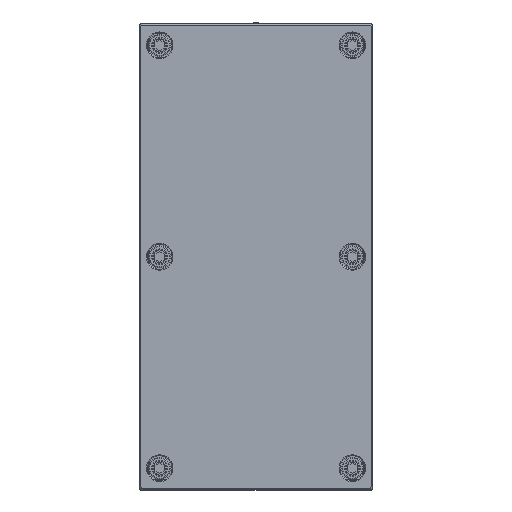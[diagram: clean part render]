
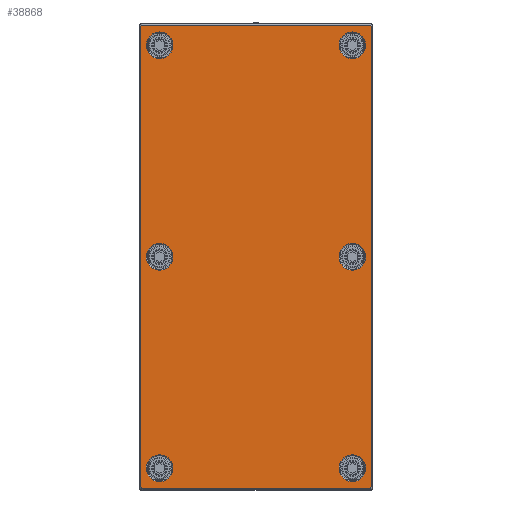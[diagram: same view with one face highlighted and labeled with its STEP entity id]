
A CAD part, front view. The second image highlights one B-rep face of the part: STEP entity #38868.
In plain terms, the highlighted planar face has unit normal (0, -1, 0).
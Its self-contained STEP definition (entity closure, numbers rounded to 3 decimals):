
#37485=CARTESIAN_POINT('',(74.,-6.,-36.5));
#37486=DIRECTION('',(0.,-1.,0.));
#37487=DIRECTION('',(0.,0.,-1.));
#37488=AXIS2_PLACEMENT_3D('',#37485,#37486,#37487);
#37490=DIRECTION('',(1.,0.,0.));
#37491=VECTOR('',#37490,148.);
#37492=CARTESIAN_POINT('',(-74.,-6.,
-37.));
#37493=LINE('',#37492,#37491);
#37494=CARTESIAN_POINT('',(-74.,-6.,-36.5));
#37495=DIRECTION('',(0.,-1.,0.));
#37496=DIRECTION('',(-1.,0.,0.));
#37497=AXIS2_PLACEMENT_3D('',#37494,#37495,#37496);
#37499=DIRECTION('',(0.,0.,-1.));
#37500=VECTOR('',#37499,73.);
#37501=CARTESIAN_POINT('',(-74.5,-6.,
36.5));
#37502=LINE('',#37501,#37500);
#37503=CARTESIAN_POINT('',(-74.,-6.,36.5));
#37504=DIRECTION('',(0.,-1.,0.));
#37505=DIRECTION('',(0.,0.,1.));
#37506=AXIS2_PLACEMENT_3D('',#37503,#37504,#37505);
#37508=DIRECTION('',(-1.,0.,0.));
#37509=VECTOR('',#37508,148.);
#37510=CARTESIAN_POINT('',(74.,-6.,
37.));
#37511=LINE('',#37510,#37509);
#37512=CARTESIAN_POINT('',(74.,-6.,36.5));
#37513=DIRECTION('',(0.,-1.,0.));
#37514=DIRECTION('',(1.,0.,0.));
#37515=AXIS2_PLACEMENT_3D('',#37512,#37513,#37514);
#37517=DIRECTION('',(0.,0.,1.));
#37518=VECTOR('',#37517,73.);
#37519=CARTESIAN_POINT('',(74.5,-6.,
-36.5));
#37520=LINE('',#37519,#37518);
#37521=CARTESIAN_POINT('',(-68.,-6.,-31.));
#37522=DIRECTION('',(0.,1.,0.));
#37523=DIRECTION('',(1.,0.,0.));
#37524=AXIS2_PLACEMENT_3D('',#37521,#37522,#37523);
#37526=CARTESIAN_POINT('',(-68.,-6.,-31.));
#37527=DIRECTION('',(0.,1.,0.));
#37528=DIRECTION('',(-1.,0.,0.));
#37529=AXIS2_PLACEMENT_3D('',#37526,#37527,#37528);
#37531=CARTESIAN_POINT('',(0.,-6.,-31.));
#37532=DIRECTION('',(0.,1.,0.));
#37533=DIRECTION('',(1.,0.,0.));
#37534=AXIS2_PLACEMENT_3D('',#37531,#37532,#37533);
#37536=CARTESIAN_POINT('',(0.,-6.,-31.));
#37537=DIRECTION('',(0.,1.,0.));
#37538=DIRECTION('',(-1.,0.,0.));
#37539=AXIS2_PLACEMENT_3D('',#37536,#37537,#37538);
#37541=CARTESIAN_POINT('',(68.,-6.,-31.));
#37542=DIRECTION('',(0.,1.,0.));
#37543=DIRECTION('',(1.,0.,0.));
#37544=AXIS2_PLACEMENT_3D('',#37541,#37542,#37543);
#37546=CARTESIAN_POINT('',(68.,-6.,-31.));
#37547=DIRECTION('',(0.,1.,0.));
#37548=DIRECTION('',(-1.,0.,0.));
#37549=AXIS2_PLACEMENT_3D('',#37546,#37547,#37548);
#37551=CARTESIAN_POINT('',(68.,-6.,31.));
#37552=DIRECTION('',(0.,1.,0.));
#37553=DIRECTION('',(1.,0.,0.));
#37554=AXIS2_PLACEMENT_3D('',#37551,#37552,#37553);
#37556=CARTESIAN_POINT('',(68.,-6.,31.));
#37557=DIRECTION('',(0.,1.,0.));
#37558=DIRECTION('',(-1.,0.,0.));
#37559=AXIS2_PLACEMENT_3D('',#37556,#37557,#37558);
#37561=CARTESIAN_POINT('',(0.,-6.,31.));
#37562=DIRECTION('',(0.,1.,0.));
#37563=DIRECTION('',(1.,0.,0.));
#37564=AXIS2_PLACEMENT_3D('',#37561,#37562,#37563);
#37566=CARTESIAN_POINT('',(0.,-6.,31.));
#37567=DIRECTION('',(0.,1.,0.));
#37568=DIRECTION('',(-1.,0.,0.));
#37569=AXIS2_PLACEMENT_3D('',#37566,#37567,#37568);
#37571=CARTESIAN_POINT('',(-68.,-6.,31.));
#37572=DIRECTION('',(0.,1.,0.));
#37573=DIRECTION('',(1.,0.,0.));
#37574=AXIS2_PLACEMENT_3D('',#37571,#37572,#37573);
#37576=CARTESIAN_POINT('',(-68.,-6.,31.));
#37577=DIRECTION('',(0.,1.,0.));
#37578=DIRECTION('',(-1.,0.,0.));
#37579=AXIS2_PLACEMENT_3D('',#37576,#37577,#37578);
#38609=CARTESIAN_POINT('',(74.,-6.,-37.));
#38610=CARTESIAN_POINT('',(74.5,-6.,-36.5));
#38611=VERTEX_POINT('',#38609);
#38612=VERTEX_POINT('',#38610);
#38617=CARTESIAN_POINT('',(74.5,-6.,
36.5));
#38618=VERTEX_POINT('',#38617);
#38621=CARTESIAN_POINT('',(74.,-6.,37.));
#38622=VERTEX_POINT('',#38621);
#38625=CARTESIAN_POINT('',(-74.,-6.,
37.));
#38626=VERTEX_POINT('',#38625);
#38629=CARTESIAN_POINT('',(-74.5,-6.,36.5));
#38630=VERTEX_POINT('',#38629);
#38633=CARTESIAN_POINT('',(-74.5,-6.,
-36.5));
#38634=VERTEX_POINT('',#38633);
#38637=CARTESIAN_POINT('',(-74.,-6.,-37.));
#38638=VERTEX_POINT('',#38637);
#38665=CARTESIAN_POINT('',(-63.7,-6.,-31.));
#38666=CARTESIAN_POINT('',(-72.3,-6.,-31.));
#38667=VERTEX_POINT('',#38665);
#38668=VERTEX_POINT('',#38666);
#38681=CARTESIAN_POINT('',(4.3,-6.,-31.));
#38682=CARTESIAN_POINT('',(-4.3,-6.,-31.));
#38683=VERTEX_POINT('',#38681);
#38684=VERTEX_POINT('',#38682);
#38705=CARTESIAN_POINT('',(72.3,-6.,-31.));
#38706=CARTESIAN_POINT('',(63.7,-6.,-31.));
#38707=VERTEX_POINT('',#38705);
#38708=VERTEX_POINT('',#38706);
#38721=CARTESIAN_POINT('',(72.3,-6.,31.));
#38722=CARTESIAN_POINT('',(63.7,-6.,31.));
#38723=VERTEX_POINT('',#38721);
#38724=VERTEX_POINT('',#38722);
#38729=CARTESIAN_POINT('',(4.3,-6.,31.));
#38730=CARTESIAN_POINT('',(-4.3,-6.,31.));
#38731=VERTEX_POINT('',#38729);
#38732=VERTEX_POINT('',#38730);
#38753=CARTESIAN_POINT('',(-63.7,-6.,31.));
#38754=CARTESIAN_POINT('',(-72.3,-6.,31.));
#38755=VERTEX_POINT('',#38753);
#38756=VERTEX_POINT('',#38754);
#38809=CARTESIAN_POINT('',(0.,-6.,0.));
#38810=DIRECTION('',(0.,1.,0.));
#38811=DIRECTION('',(1.,0.,0.));
#38812=AXIS2_PLACEMENT_3D('',#38809,#38810,#38811);
#38813=PLANE('',#38812);
#38815=ORIENTED_EDGE('',*,*,#38814,.F.);
#38817=ORIENTED_EDGE('',*,*,#38816,.F.);
#38819=ORIENTED_EDGE('',*,*,#38818,.F.);
#38821=ORIENTED_EDGE('',*,*,#38820,.F.);
#38823=ORIENTED_EDGE('',*,*,#38822,.F.);
#38825=ORIENTED_EDGE('',*,*,#38824,.F.);
#38827=ORIENTED_EDGE('',*,*,#38826,.F.);
#38829=ORIENTED_EDGE('',*,*,#38828,.F.);
#38830=EDGE_LOOP('',(#38815,#38817,#38819,#38821,#38823,#38825,#38827,#38829));
#38831=FACE_OUTER_BOUND('',#38830,.F.);
#38833=ORIENTED_EDGE('',*,*,#38832,.F.);
#38835=ORIENTED_EDGE('',*,*,#38834,.F.);
#38836=EDGE_LOOP('',(#38833,#38835));
#38837=FACE_BOUND('',#38836,.F.);
#38839=ORIENTED_EDGE('',*,*,#38838,.F.);
#38841=ORIENTED_EDGE('',*,*,#38840,.F.);
#38842=EDGE_LOOP('',(#38839,#38841));
#38843=FACE_BOUND('',#38842,.F.);
#38845=ORIENTED_EDGE('',*,*,#38844,.F.);
#38847=ORIENTED_EDGE('',*,*,#38846,.F.);
#38848=EDGE_LOOP('',(#38845,#38847));
#38849=FACE_BOUND('',#38848,.F.);
#38851=ORIENTED_EDGE('',*,*,#38850,.F.);
#38853=ORIENTED_EDGE('',*,*,#38852,.F.);
#38854=EDGE_LOOP('',(#38851,#38853));
#38855=FACE_BOUND('',#38854,.F.);
#38857=ORIENTED_EDGE('',*,*,#38856,.F.);
#38859=ORIENTED_EDGE('',*,*,#38858,.F.);
#38860=EDGE_LOOP('',(#38857,#38859));
#38861=FACE_BOUND('',#38860,.F.);
#38863=ORIENTED_EDGE('',*,*,#38862,.F.);
#38865=ORIENTED_EDGE('',*,*,#38864,.F.);
#38866=EDGE_LOOP('',(#38863,#38865));
#38867=FACE_BOUND('',#38866,.F.);
#38868=ADVANCED_FACE('',(#38831,#38837,#38843,#38849,#38855,#38861,#38867),
#38813,.F.);
#37489=CIRCLE('',#37488,0.5);
#37498=CIRCLE('',#37497,0.5);
#37507=CIRCLE('',#37506,0.5);
#37516=CIRCLE('',#37515,0.5);
#37525=CIRCLE('',#37524,4.3);
#37530=CIRCLE('',#37529,4.3);
#37535=CIRCLE('',#37534,4.3);
#37540=CIRCLE('',#37539,4.3);
#37545=CIRCLE('',#37544,4.3);
#37550=CIRCLE('',#37549,4.3);
#37555=CIRCLE('',#37554,4.3);
#37560=CIRCLE('',#37559,4.3);
#37565=CIRCLE('',#37564,4.3);
#37570=CIRCLE('',#37569,4.3);
#37575=CIRCLE('',#37574,4.3);
#37580=CIRCLE('',#37579,4.3);
#38814=EDGE_CURVE('',#38611,#38612,#37489,.T.);
#38816=EDGE_CURVE('',#38638,#38611,#37493,.T.);
#38818=EDGE_CURVE('',#38634,#38638,#37498,.T.);
#38820=EDGE_CURVE('',#38630,#38634,#37502,.T.);
#38822=EDGE_CURVE('',#38626,#38630,#37507,.T.);
#38824=EDGE_CURVE('',#38622,#38626,#37511,.T.);
#38826=EDGE_CURVE('',#38618,#38622,#37516,.T.);
#38828=EDGE_CURVE('',#38612,#38618,#37520,.T.);
#38832=EDGE_CURVE('',#38667,#38668,#37525,.T.);
#38834=EDGE_CURVE('',#38668,#38667,#37530,.T.);
#38838=EDGE_CURVE('',#38683,#38684,#37535,.T.);
#38840=EDGE_CURVE('',#38684,#38683,#37540,.T.);
#38844=EDGE_CURVE('',#38707,#38708,#37545,.T.);
#38846=EDGE_CURVE('',#38708,#38707,#37550,.T.);
#38850=EDGE_CURVE('',#38723,#38724,#37555,.T.);
#38852=EDGE_CURVE('',#38724,#38723,#37560,.T.);
#38856=EDGE_CURVE('',#38731,#38732,#37565,.T.);
#38858=EDGE_CURVE('',#38732,#38731,#37570,.T.);
#38862=EDGE_CURVE('',#38755,#38756,#37575,.T.);
#38864=EDGE_CURVE('',#38756,#38755,#37580,.T.);
